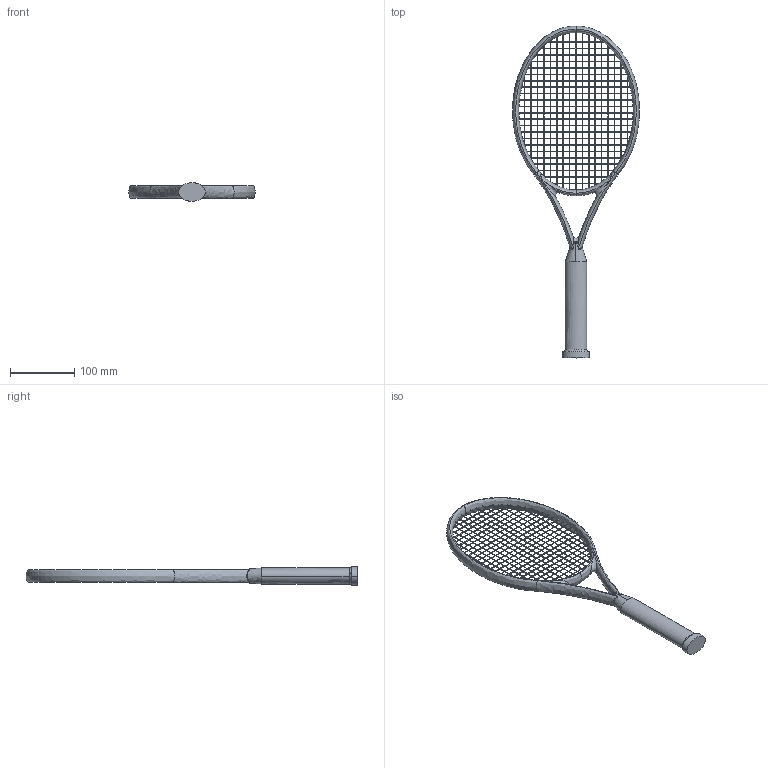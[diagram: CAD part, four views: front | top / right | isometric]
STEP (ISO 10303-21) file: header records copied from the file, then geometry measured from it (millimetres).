
FILE_DESCRIPTION (( 'STEP AP214' ), '1' );
FILE_NAME ('Squash Racket-1.STEP', '2024-03-31T03:45:43', ( '' ), ( '' ), 'SwSTEP 2.0', 'SolidWorks 2018', '' );
FILE_SCHEMA (( 'AUTOMOTIVE_DESIGN' ));
Length unit declared in the file: millimetre
Products named in the file (1): Squash Racket-1
Bounding box: 197.72 x 517.43 x 29.01 mm (x, y, z)
Volume: 262942 mm3; surface area: 82720.8 mm2
Topology: 41 solids, 41 shells, 207 faces, 357 edges, 228 vertices
Faces by surface type: bspline 124, cylinder 80, plane 3
Entity records: 12781 total; most frequent: CARTESIAN_POINT 8028, ORIENTED_EDGE 710, EDGE_CURVE 355, DIRECTION 293, B_SPLINE_CURVE_WITH_KNOTS 232, VERTEX_POINT 228, EDGE_LOOP 209, FACE_OUTER_BOUND 207
